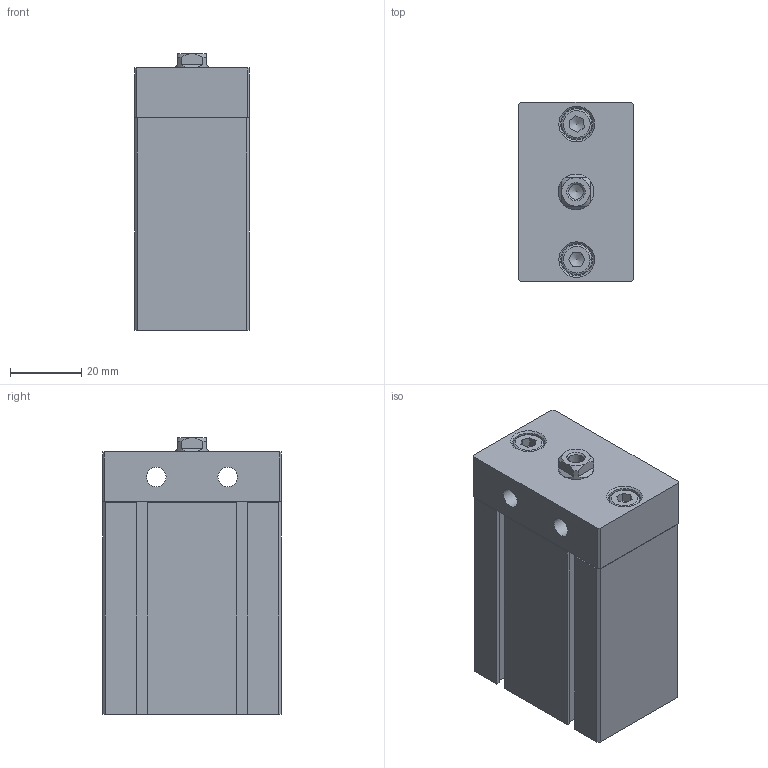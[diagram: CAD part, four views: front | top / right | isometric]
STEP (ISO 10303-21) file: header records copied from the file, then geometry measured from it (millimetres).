
FILE_DESCRIPTION((''),'2;1');
FILE_NAME('I:\3D電子目錄\氣缸\ND\ND\ND25\ND25x30.stp','2007-07-24T19:03:26',('Administrator'),(''),'Autodesk Inventor 11','Autodesk Inventor 11','');
FILE_SCHEMA(('AUTOMOTIVE_DESIGN { 1 0 10303 214 1 1 1 1 }'));
Length unit declared in the file: millimetre
Products named in the file (4): ND25; ISO 4762 M5 x 12; R 形環 28
Assembly tree (4 placements, depth 2):
  ND25
    ND25
    ISO 4762 M5 x 12  x2
    R 形環 28
Bounding box: 32 x 50.1 x 77.5 mm (x, y, z)
Volume: 108004.9 mm3; surface area: 23275.5 mm2
Topology: 5 solids, 5 shells, 167 faces, 389 edges, 247 vertices
Faces by surface type: plane 105, cylinder 25, cone 18, bspline 16, torus 3
Full cylindrical faces by diameter (mm): 1.5 x2, 1.9 x2, 5 x2, 5.5 x2, 8.5 x2, 9 x2, 17 x1, 28 x1, 29.4 x1
Entity records: 4347 total; most frequent: CARTESIAN_POINT 939, DIRECTION 678, ORIENTED_EDGE 626, EDGE_CURVE 313, AXIS2_PLACEMENT_3D 234, VERTEX_POINT 221, EDGE_LOOP 214, VECTOR 210
